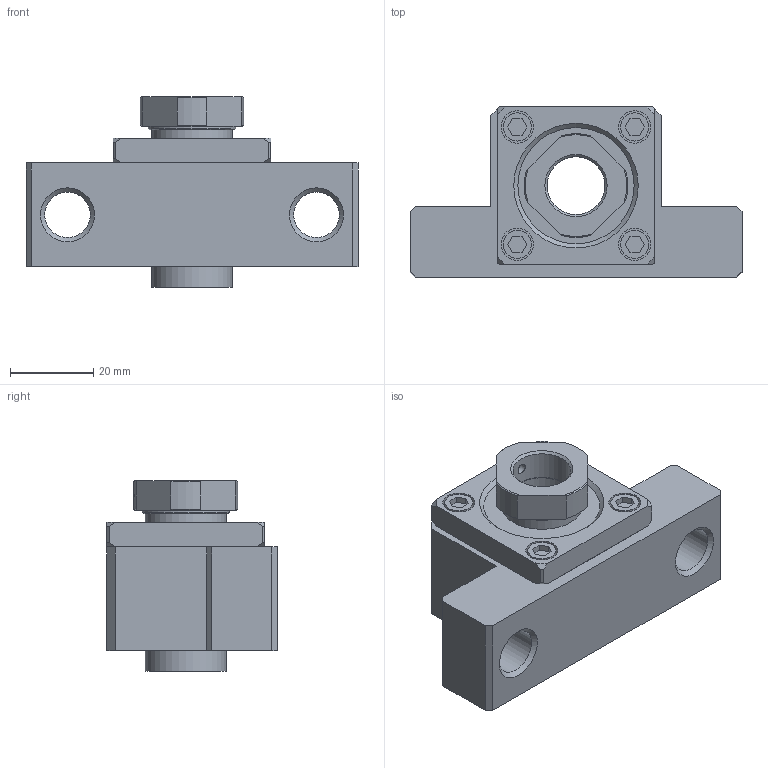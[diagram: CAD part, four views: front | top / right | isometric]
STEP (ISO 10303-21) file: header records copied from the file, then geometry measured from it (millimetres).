
FILE_DESCRIPTION(/* description */ ('STEP AP214'),/* implementation_level */ '2;1');
FILE_NAME(/* name */ 'EK15L______CAD_NO_Yes',/* time_stamp */ '2026-09-17T12:57:02+02:00',/* author */ ('License CC BY-ND 4.0'),/* organization */ ('CADENAS'),/* preprocessor_version */ 'ST-DEVELOPER v20',/* originating_system */ 'PARTsolutions',/* authorisation */ ' ');
FILE_SCHEMA (('AUTOMOTIVE_DESIGN {1 0 10303 214 3 1 1}'));
Length unit declared in the file: millimetre
Products named in the file (4): EK15L______CAD_NO_Yes; EK 15L; EK 15Lcollar; RN 15
Assembly tree (4 placements, depth 2):
  EK15L______CAD_NO_Yes
    EK 15L
    EK 15Lcollar  x2
    RN 15
Bounding box: 80 x 41 x 46 mm (x, y, z)
Volume: 60788.2 mm3; surface area: 18300 mm2
Topology: 4 solids, 4 shells, 142 faces, 330 edges, 218 vertices
Faces by surface type: plane 86, cylinder 31, cone 25
Full cylindrical faces by diameter (mm): 2.459 x1, 3 x1, 6.8 x4, 7.8 x4, 11 x2, 13.917 x1, 15 x3, 19.5 x4, 21 x1, 28 x1, 28.1 x1
Entity records: 3959 total; most frequent: CARTESIAN_POINT 775, DIRECTION 626, ORIENTED_EDGE 584, EDGE_CURVE 292, AXIS2_PLACEMENT_3D 229, VERTEX_POINT 212, EDGE_LOOP 200, FACE_BOUND 200
